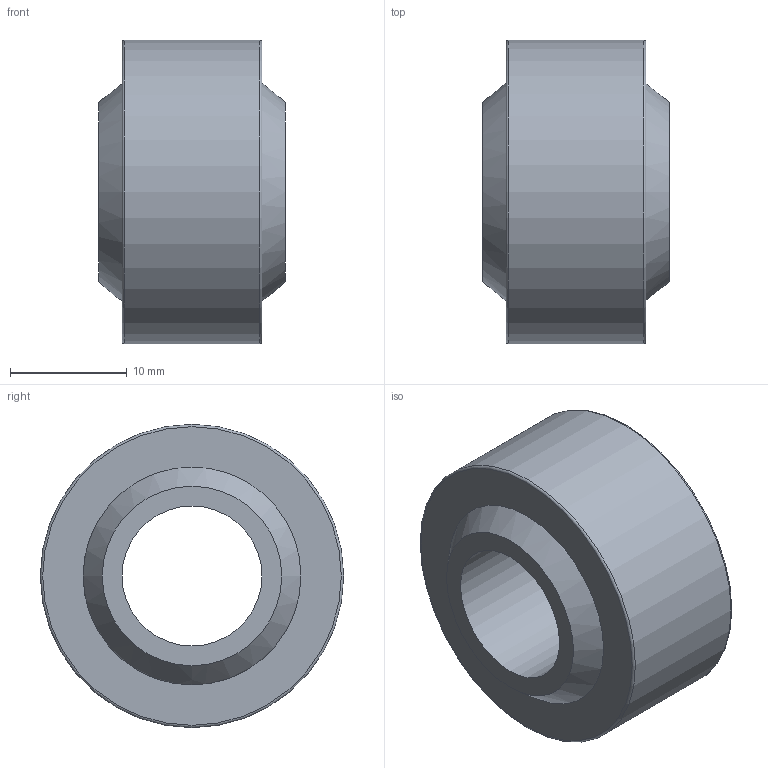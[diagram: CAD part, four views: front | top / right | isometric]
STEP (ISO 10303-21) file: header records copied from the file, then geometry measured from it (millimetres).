
FILE_DESCRIPTION( ( 'STEP AP203' ), '1' );
FILE_NAME( 'C:/Temp/Ganter_Step_05_03_2020/data/3_6/gn_648_8/gn_648_8_w/Ball joint GN 648.8-12-26-W.stp', '2020-03-12T14:14:30', ( 'License CC BY-ND 4.0' ), ( 'CADENAS' ), ' ', 'PARTsolutions', ' ' );
FILE_SCHEMA( ( 'CONFIG_CONTROL_DESIGN' ) );
Length unit declared in the file: millimetre
Products named in the file (3): Ball joint GN 648.8-12-26-W; _Ball joint GN 648.8-12-26-W-2; _Ball joint GN 648.8-12-26-W-1
Assembly tree (2 placements, depth 2):
  Ball joint GN 648.8-12-26-W
    _Ball joint GN 648.8-12-26-W-2
    _Ball joint GN 648.8-12-26-W-1
Bounding box: 16 x 26 x 26 mm (x, y, z)
Volume: 5488.6 mm3; surface area: 4181.9 mm2
Topology: 2 solids, 2 shells, 10 faces, 16 edges, 10 vertices
Faces by surface type: plane 4, sphere 2, torus 2, cylinder 2
Full cylindrical faces by diameter (mm): 12 x1, 26 x1
Entity records: 320 total; most frequent: DIRECTION 46, CARTESIAN_POINT 33, AXIS2_PLACEMENT_3D 23, EDGE_LOOP 20, ORIENTED_EDGE 20, FACE_OUTER_BOUND 16, CC_DESIGN_PERSON_AND_ORGANIZATION_ASSIGNMENT 13, ADVANCED_FACE 10
